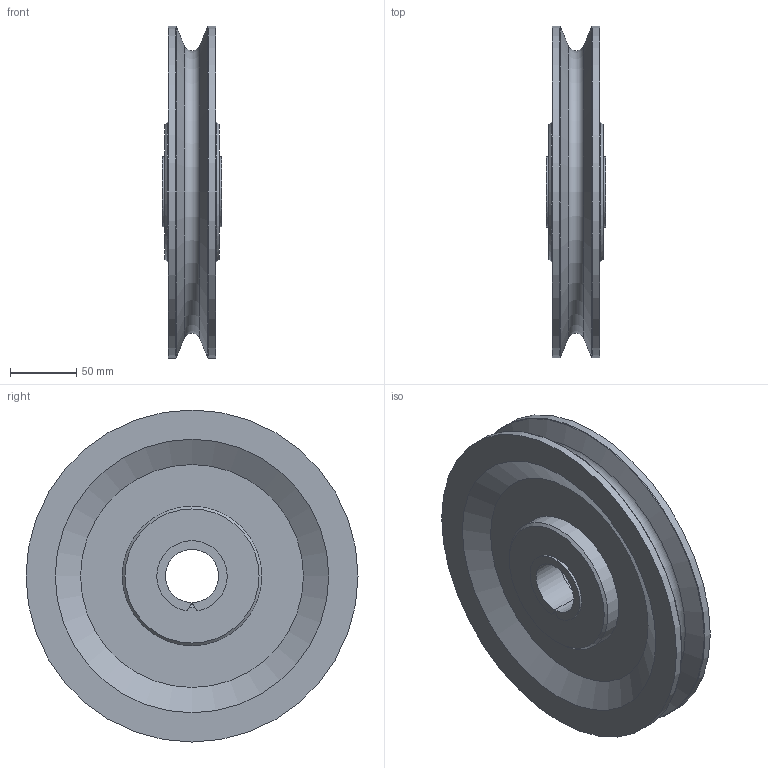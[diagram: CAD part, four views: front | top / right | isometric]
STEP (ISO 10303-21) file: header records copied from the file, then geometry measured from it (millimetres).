
FILE_DESCRIPTION(/* description */ ('Seilrolle ø250 Buchse komplett'),/* implementation_level */ '2;1');
FILE_NAME(/* name */ 'Z:\Workspace\03 Seilrollen\1.401 Seilrollen Gleitlager\1.401.07 Seilrolle ø 250 Buchse\1.401.07 Seilrolle ø250 Buchse komplett.stp',/* time_stamp */ '2021-10-04T11:24:55+02:00',/* author */ ('cad-user'),/* organization */ (''),/* preprocessor_version */ 'ST-DEVELOPER v18',/* originating_system */ 'Autodesk Inventor 2020',/* authorisation */ '');
FILE_SCHEMA (('AUTOMOTIVE_DESIGN { 1 0 10303 214 3 1 1 }'));
Length unit declared in the file: millimetre
Products named in the file (4): 1.401.07 Seilrolle ø250 Buchse komplett; 1.401.07 Seilrolle ø250 Buchse; Bundbuchse BB4044-16-DU; Bundbuchse BB4044-26-DU
Assembly tree (3 placements, depth 2):
  1.401.07 Seilrolle ø250 Buchse komplett
    1.401.07 Seilrolle ø250 Buchse
    Bundbuchse BB4044-16-DU
    Bundbuchse BB4044-26-DU
Bounding box: 45 x 250 x 250 mm (x, y, z)
Volume: 1126073.7 mm3; surface area: 169610.2 mm2
Topology: 3 solids, 3 shells, 42 faces, 110 edges, 74 vertices
Faces by surface type: plane 16, cylinder 11, cone 10, torus 5
Full cylindrical faces by diameter (mm): 40 x2, 44 x1, 105 x2, 250 x2
Entity records: 1523 total; most frequent: CARTESIAN_POINT 277, DIRECTION 265, ORIENTED_EDGE 220, AXIS2_PLACEMENT_3D 114, EDGE_CURVE 110, VERTEX_POINT 74, CIRCLE 65, EDGE_LOOP 48
